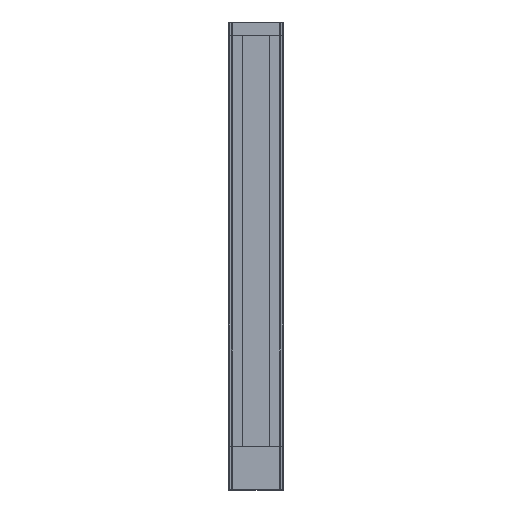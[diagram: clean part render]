
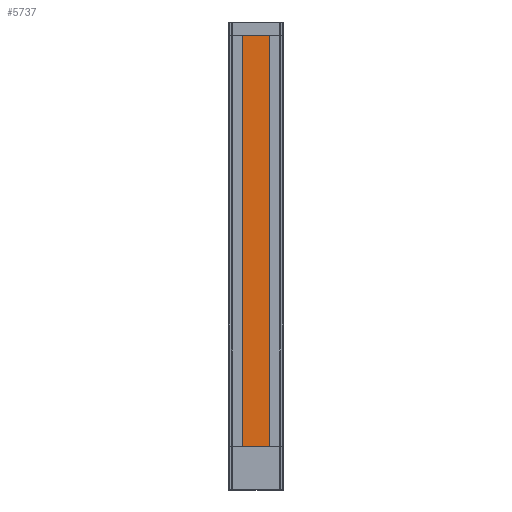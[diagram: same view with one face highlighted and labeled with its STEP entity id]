
A CAD part, top view. The second image highlights one B-rep face of the part: STEP entity #5737.
In plain terms, the highlighted planar face has unit normal (0, 0, 1).
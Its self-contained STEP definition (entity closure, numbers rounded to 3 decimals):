
#4 = VERTEX_POINT ( 'NONE', #245 ) ;
#245 = CARTESIAN_POINT ( 'NONE',  ( 10., 0., 39. ) ) ;
#594 = CARTESIAN_POINT ( 'NONE',  ( 10., 300., 39. ) ) ;
#1682 = LINE ( 'NONE', #9738, #2466 ) ;
#2466 = VECTOR ( 'NONE', #10011, 1000. ) ;
#2808 = CARTESIAN_POINT ( 'NONE',  ( -10., 0., 39. ) ) ;
#4039 = DIRECTION ( 'NONE',  ( 1., 0., 0. ) ) ;
#4210 = ORIENTED_EDGE ( 'NONE', *, *, #12643, .F. ) ;
#5737 = ADVANCED_FACE ( 'NONE', ( #13605 ), #21947, .F. ) ;
#7161 = DIRECTION ( 'NONE',  ( 0., -1., 0. ) ) ;
#7842 = ORIENTED_EDGE ( 'NONE', *, *, #8110, .T. ) ;
#8110 = EDGE_CURVE ( 'NONE', #16081, #4, #10588, .T. ) ;
#8872 = CARTESIAN_POINT ( 'NONE',  ( 0., 300., 39. ) ) ;
#9004 = VERTEX_POINT ( 'NONE', #16105 ) ;
#9498 = DIRECTION ( 'NONE',  ( -1., 0., 0. ) ) ;
#9738 = CARTESIAN_POINT ( 'NONE',  ( 10., 300., 39. ) ) ;
#9953 = VERTEX_POINT ( 'NONE', #594 ) ;
#10011 = DIRECTION ( 'NONE',  ( 0., -1., 0. ) ) ;
#10588 = LINE ( 'NONE', #22768, #14268 ) ;
#11547 = CARTESIAN_POINT ( 'NONE',  ( 0., 300., 39. ) ) ;
#12643 = EDGE_CURVE ( 'NONE', #9004, #9953, #25429, .T. ) ;
#13605 = FACE_OUTER_BOUND ( 'NONE', #21142, .T. ) ;
#14268 = VECTOR ( 'NONE', #4039, 1000. ) ;
#16081 = VERTEX_POINT ( 'NONE', #2808 ) ;
#16105 = CARTESIAN_POINT ( 'NONE',  ( -10., 300., 39. ) ) ;
#17415 = CARTESIAN_POINT ( 'NONE',  ( -10., 300., 39. ) ) ;
#18206 = ORIENTED_EDGE ( 'NONE', *, *, #19747, .T. ) ;
#19563 = DIRECTION ( 'NONE',  ( 1., 0., 0. ) ) ;
#19747 = EDGE_CURVE ( 'NONE', #9004, #16081, #25481, .T. ) ;
#19796 = EDGE_CURVE ( 'NONE', #9953, #4, #1682, .T. ) ;
#19905 = DIRECTION ( 'NONE',  ( 0., 0., -1. ) ) ;
#21142 = EDGE_LOOP ( 'NONE', ( #23391, #4210, #18206, #7842 ) ) ;
#21947 = PLANE ( 'NONE',  #24130 ) ;
#22768 = CARTESIAN_POINT ( 'NONE',  ( 0., 0., 39. ) ) ;
#22996 = VECTOR ( 'NONE', #19563, 1000. ) ;
#23391 = ORIENTED_EDGE ( 'NONE', *, *, #19796, .F. ) ;
#24130 = AXIS2_PLACEMENT_3D ( 'NONE', #11547, #19905, #9498 ) ;
#25429 = LINE ( 'NONE', #8872, #22996 ) ;
#25481 = LINE ( 'NONE', #17415, #25585 ) ;
#25585 = VECTOR ( 'NONE', #7161, 1000. ) ;
